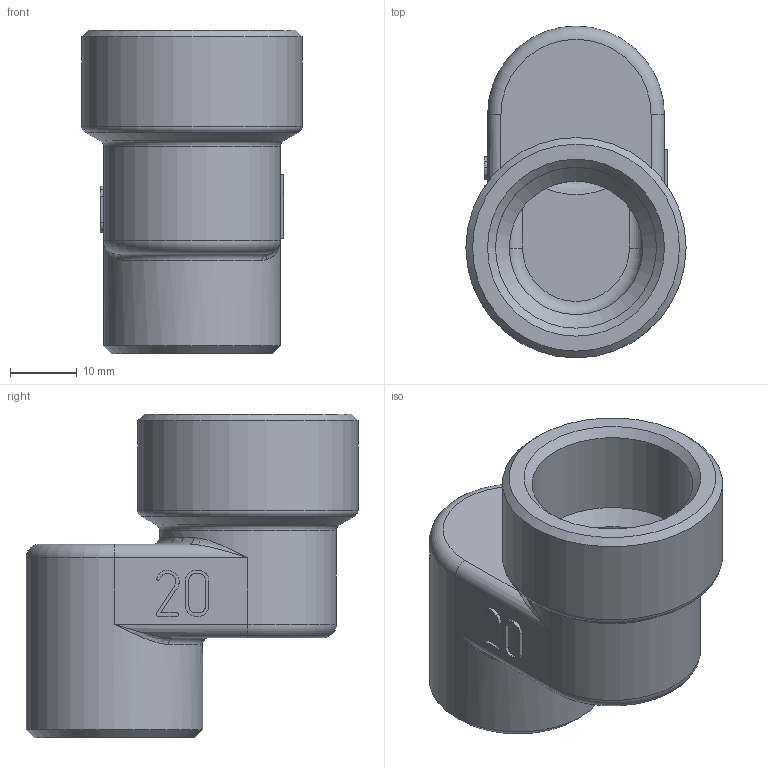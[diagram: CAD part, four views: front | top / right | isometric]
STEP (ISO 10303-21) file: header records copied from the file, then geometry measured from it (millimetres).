
FILE_DESCRIPTION(('STEP AP203'), '1');
FILE_NAME('ÂÐ.752289.011 - VTr.094.N.05020 - Ôèò. ðåçüá. ýêñö', '2024-06-21T11:52:35', ('Boss'), (''), 'C3D Converter', 'C3D Toolkit', '');
FILE_SCHEMA(('CONFIG_CONTROL_DESIGN'));
Length unit declared in the file: millimetre
Products named in the file (1): ВР.752289.011
Bounding box: 33 x 49.75 x 48.5 mm (x, y, z)
Volume: 18213.9 mm3; surface area: 10774 mm2
Topology: 1 solids, 1 shells, 123 faces, 317 edges, 194 vertices
Faces by surface type: plane 45, extrusion 39, cylinder 15, torus 11, bspline 8, cone 5
Full cylindrical faces by diameter (mm): 20 x2, 24.118 x1, 26.5 x2, 33 x1
Entity records: 4608 total; most frequent: CARTESIAN_POINT 1881, ORIENTED_EDGE 590, DIRECTION 432, EDGE_CURVE 295, VERTEX_POINT 194, VECTOR 190, LINE 151, EDGE_LOOP 145
